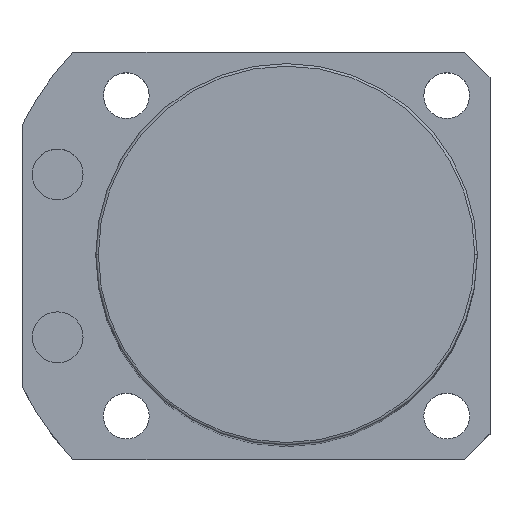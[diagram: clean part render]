
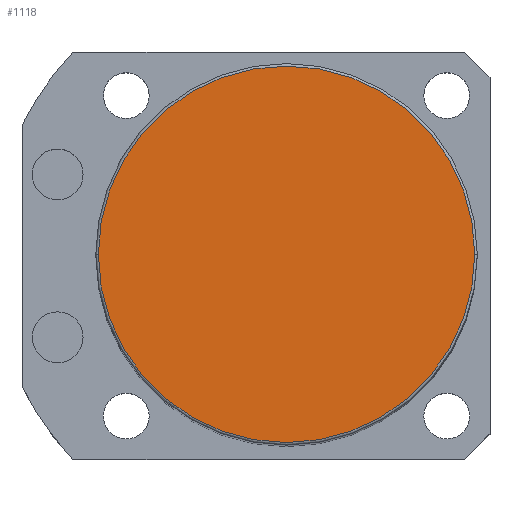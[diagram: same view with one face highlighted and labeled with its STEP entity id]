
A CAD part, top view. The second image highlights one B-rep face of the part: STEP entity #1118.
In plain terms, the highlighted planar face has unit normal (0, 0, 1).
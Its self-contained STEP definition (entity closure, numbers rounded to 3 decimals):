
#1 = DIRECTION ( 'NONE',  ( 1., 0., 0. ) ) ;
#158 = CIRCLE ( 'NONE', #338, 37. ) ;
#255 = DIRECTION ( 'NONE',  ( 1., 0., 0. ) ) ;
#278 = CARTESIAN_POINT ( 'NONE',  ( 0., 0., 190.5 ) ) ;
#338 = AXIS2_PLACEMENT_3D ( 'NONE', #1765, #806, #255 ) ;
#443 = ORIENTED_EDGE ( 'NONE', *, *, #1535, .T. ) ;
#487 = DIRECTION ( 'NONE',  ( 1., 0., 0. ) ) ;
#670 = FACE_OUTER_BOUND ( 'NONE', #1384, .T. ) ;
#788 = VERTEX_POINT ( 'NONE', #996 ) ;
#806 = DIRECTION ( 'NONE',  ( 0., 0., 1. ) ) ;
#996 = CARTESIAN_POINT ( 'NONE',  ( 37., 0., 190.5 ) ) ;
#1058 = AXIS2_PLACEMENT_3D ( 'NONE', #2855, #2637, #1 ) ;
#1118 = ADVANCED_FACE ( 'NONE', ( #670 ), #1313, .T. ) ;
#1306 = AXIS2_PLACEMENT_3D ( 'NONE', #278, #1828, #487 ) ;
#1313 = PLANE ( 'NONE',  #1058 ) ;
#1359 = CARTESIAN_POINT ( 'NONE',  ( -37., 0., 190.5 ) ) ;
#1384 = EDGE_LOOP ( 'NONE', ( #1584, #443 ) ) ;
#1535 = EDGE_CURVE ( 'NONE', #2239, #788, #1747, .T. ) ;
#1584 = ORIENTED_EDGE ( 'NONE', *, *, #1826, .T. ) ;
#1747 = CIRCLE ( 'NONE', #1306, 37. ) ;
#1765 = CARTESIAN_POINT ( 'NONE',  ( 0., 0., 190.5 ) ) ;
#1826 = EDGE_CURVE ( 'NONE', #788, #2239, #158, .T. ) ;
#1828 = DIRECTION ( 'NONE',  ( 0., 0., 1. ) ) ;
#2239 = VERTEX_POINT ( 'NONE', #1359 ) ;
#2637 = DIRECTION ( 'NONE',  ( 0., 0., 1. ) ) ;
#2855 = CARTESIAN_POINT ( 'NONE',  ( 0., 0., 190.5 ) ) ;
